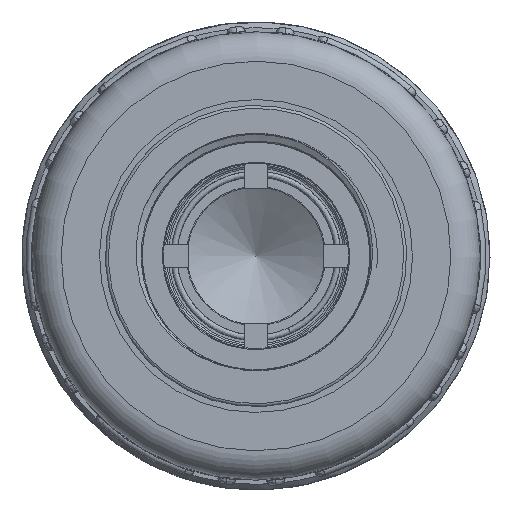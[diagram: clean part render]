
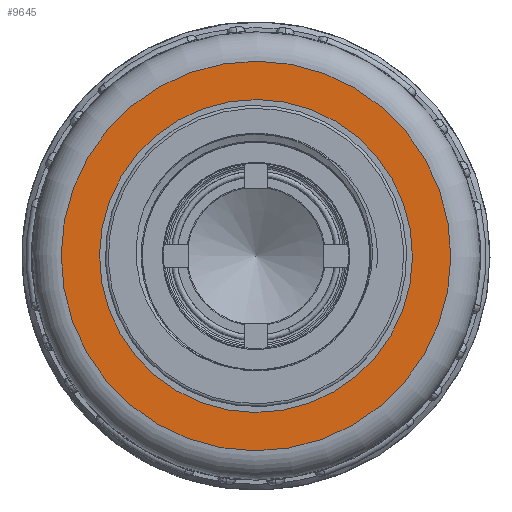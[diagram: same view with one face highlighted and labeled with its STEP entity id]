
A CAD part, front view. The second image highlights one B-rep face of the part: STEP entity #9645.
In plain terms, the highlighted planar face has unit normal (0, -1, 0).
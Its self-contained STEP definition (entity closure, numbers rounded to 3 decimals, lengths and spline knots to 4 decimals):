
#1698=PLANE('',#10326);
#1895=FACE_BOUND('',#2770,.T.);
#2188=FACE_OUTER_BOUND('',#2769,.T.);
#2769=EDGE_LOOP('',(#6955));
#2770=EDGE_LOOP('',(#6956));
#3383=CIRCLE('',#10327,3.33);
#3384=CIRCLE('',#10328,2.675);
#4022=VERTEX_POINT('',#40092);
#4023=VERTEX_POINT('',#40094);
#5125=EDGE_CURVE('',#4022,#4022,#3383,.T.);
#5126=EDGE_CURVE('',#4023,#4023,#3384,.T.);
#6955=ORIENTED_EDGE('',*,*,#5125,.F.);
#6956=ORIENTED_EDGE('',*,*,#5126,.T.);
#9645=ADVANCED_FACE('',(#2188,#1895),#1698,.T.);
#10326=AXIS2_PLACEMENT_3D('',#40091,#11746,#11747);
#10327=AXIS2_PLACEMENT_3D('',#40093,#11748,#11749);
#10328=AXIS2_PLACEMENT_3D('',#40095,#11750,#11751);
#11746=DIRECTION('center_axis',(0.,-1.,0.));
#11747=DIRECTION('ref_axis',(0.007,0.,1.));
#11748=DIRECTION('center_axis',(0.,1.,0.));
#11749=DIRECTION('ref_axis',(-1.,0.,0.007));
#11750=DIRECTION('center_axis',(0.,1.,0.));
#11751=DIRECTION('ref_axis',(-1.,0.,0.007));
#40091=CARTESIAN_POINT('Origin',(3.3299,-4.39,-0.022));
#40092=CARTESIAN_POINT('',(3.3299,-4.39,-0.022));
#40093=CARTESIAN_POINT('Origin',(0.,-4.39,0.));
#40094=CARTESIAN_POINT('',(2.6749,-4.39,-0.0177));
#40095=CARTESIAN_POINT('Origin',(0.,-4.39,0.));
